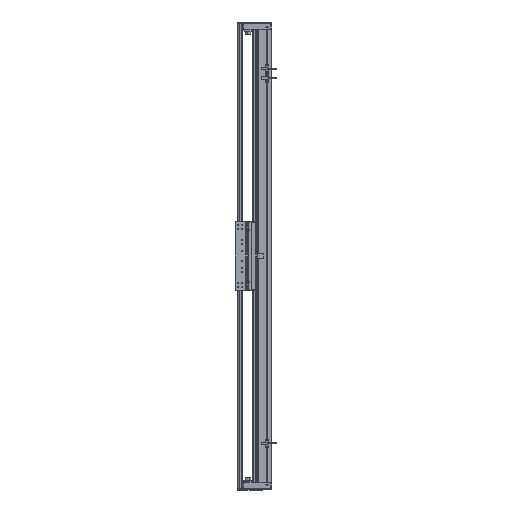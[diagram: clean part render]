
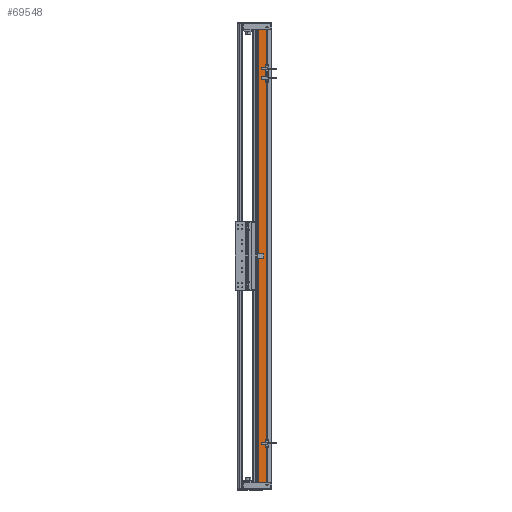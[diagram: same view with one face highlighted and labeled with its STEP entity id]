
A CAD part, left-side view. The second image highlights one B-rep face of the part: STEP entity #69548.
In plain terms, the highlighted planar face has unit normal (-1, 0, 0).
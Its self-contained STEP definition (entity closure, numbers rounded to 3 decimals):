
#611 = ORIENTED_EDGE ( 'NONE', *, *, #57686, .F. ) ;
#1554 = VERTEX_POINT ( 'NONE', #2803 ) ;
#2803 = CARTESIAN_POINT ( 'NONE',  ( -97.5, 14.45, -630. ) ) ;
#4846 = VECTOR ( 'NONE', #13193, 1000. ) ;
#9513 = PLANE ( 'NONE',  #31382 ) ;
#12559 = VERTEX_POINT ( 'NONE', #28561 ) ;
#13193 = DIRECTION ( 'NONE',  ( 0., -1., 0. ) ) ;
#18161 = ORIENTED_EDGE ( 'NONE', *, *, #113623, .T. ) ;
#18256 = LINE ( 'NONE', #98637, #112200 ) ;
#19032 = LINE ( 'NONE', #146006, #115096 ) ;
#24461 = VECTOR ( 'NONE', #93484, 1000. ) ;
#28561 = CARTESIAN_POINT ( 'NONE',  ( -97.5, 36.95, -630. ) ) ;
#31382 = AXIS2_PLACEMENT_3D ( 'NONE', #113219, #104125, #34268 ) ;
#34268 = DIRECTION ( 'NONE',  ( 0., 1., 0. ) ) ;
#45767 = ORIENTED_EDGE ( 'NONE', *, *, #126521, .T. ) ;
#48439 = CARTESIAN_POINT ( 'NONE',  ( -97.5, 36.95, 630. ) ) ;
#52083 = DIRECTION ( 'NONE',  ( 0., 0., -1. ) ) ;
#57686 = EDGE_CURVE ( 'NONE', #61044, #80991, #140187, .T. ) ;
#61044 = VERTEX_POINT ( 'NONE', #77941 ) ;
#61558 = EDGE_CURVE ( 'NONE', #80991, #1554, #139341, .T. ) ;
#63304 = DIRECTION ( 'NONE',  ( 0., -1., 0. ) ) ;
#67963 = CARTESIAN_POINT ( 'NONE',  ( -97.5, 14.45, 630. ) ) ;
#69548 = ADVANCED_FACE ( 'NONE', ( #91372 ), #9513, .F. ) ;
#77941 = CARTESIAN_POINT ( 'NONE',  ( -97.5, 36.95, 630. ) ) ;
#79787 = CARTESIAN_POINT ( 'NONE',  ( -97.5, 14.45, 630. ) ) ;
#80991 = VERTEX_POINT ( 'NONE', #79787 ) ;
#91372 = FACE_OUTER_BOUND ( 'NONE', #130810, .T. ) ;
#93484 = DIRECTION ( 'NONE',  ( 0., 0., -1. ) ) ;
#98637 = CARTESIAN_POINT ( 'NONE',  ( -97.5, 36.95, -630. ) ) ;
#104125 = DIRECTION ( 'NONE',  ( 1., 0., 0. ) ) ;
#112200 = VECTOR ( 'NONE', #63304, 1000. ) ;
#113219 = CARTESIAN_POINT ( 'NONE',  ( -97.5, 36.95, 630. ) ) ;
#113623 = EDGE_CURVE ( 'NONE', #61044, #12559, #19032, .T. ) ;
#115096 = VECTOR ( 'NONE', #52083, 1000. ) ;
#126521 = EDGE_CURVE ( 'NONE', #12559, #1554, #18256, .T. ) ;
#130803 = ORIENTED_EDGE ( 'NONE', *, *, #61558, .F. ) ;
#130810 = EDGE_LOOP ( 'NONE', ( #45767, #130803, #611, #18161 ) ) ;
#139341 = LINE ( 'NONE', #67963, #24461 ) ;
#140187 = LINE ( 'NONE', #48439, #4846 ) ;
#146006 = CARTESIAN_POINT ( 'NONE',  ( -97.5, 36.95, 630. ) ) ;
